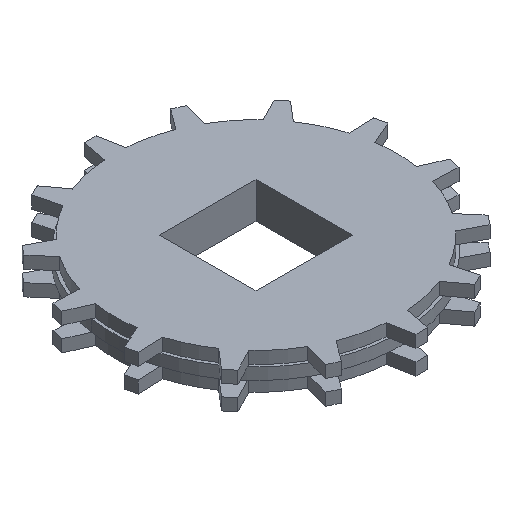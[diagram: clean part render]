
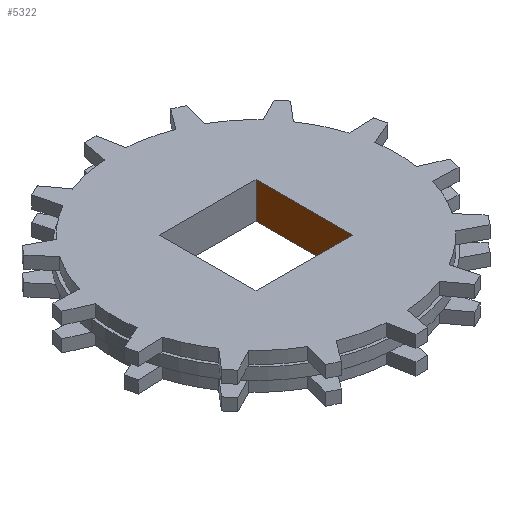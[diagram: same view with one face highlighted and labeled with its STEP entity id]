
A CAD part, isometric view. The second image highlights one B-rep face of the part: STEP entity #5322.
In plain terms, the highlighted planar face has unit normal (-1, 0, 0).
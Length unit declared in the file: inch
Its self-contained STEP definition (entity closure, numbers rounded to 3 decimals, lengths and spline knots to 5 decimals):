
#177=DIRECTION('',(0.,1.,0.));
#178=VECTOR('',#177,3.937);
#179=CARTESIAN_POINT('',(1.9685,-1.9685,-0.74));
#180=LINE('',#179,#178);
#915=DIRECTION('',(0.,1.,0.));
#916=VECTOR('',#915,3.937);
#917=CARTESIAN_POINT('',(1.9685,-1.9685,0.74));
#918=LINE('',#917,#916);
#1953=DIRECTION('',(0.,0.,-1.));
#1954=VECTOR('',#1953,1.48);
#1955=CARTESIAN_POINT('',(1.9685,-1.9685,0.74));
#1956=LINE('',#1955,#1954);
#1957=DIRECTION('',(0.,0.,-1.));
#1958=VECTOR('',#1957,1.48);
#1959=CARTESIAN_POINT('',(1.9685,1.9685,0.74));
#1960=LINE('',#1959,#1958);
#2077=CARTESIAN_POINT('',(1.9685,-1.9685,-0.74));
#2078=VERTEX_POINT('',#2077);
#2079=CARTESIAN_POINT('',(1.9685,1.9685,-0.74));
#2080=VERTEX_POINT('',#2079);
#2085=CARTESIAN_POINT('',(1.9685,-1.9685,0.74));
#2086=VERTEX_POINT('',#2085);
#2087=CARTESIAN_POINT('',(1.9685,1.9685,0.74));
#2088=VERTEX_POINT('',#2087);
#5310=CARTESIAN_POINT('',(1.9685,-1.9685,0.888));
#5311=DIRECTION('',(1.,0.,0.));
#5312=DIRECTION('',(0.,1.,0.));
#5313=AXIS2_PLACEMENT_3D('',#5310,#5311,#5312);
#5314=PLANE('',#5313);
#5315=ORIENTED_EDGE('',*,*,#2660,.T.);
#5317=ORIENTED_EDGE('',*,*,#5316,.F.);
#5318=ORIENTED_EDGE('',*,*,#3991,.F.);
#5319=ORIENTED_EDGE('',*,*,#5303,.T.);
#5320=EDGE_LOOP('',(#5315,#5317,#5318,#5319));
#5321=FACE_OUTER_BOUND('',#5320,.F.);
#5322=ADVANCED_FACE('',(#5321),#5314,.F.);
#2660=EDGE_CURVE('',#2078,#2080,#180,.T.);
#3991=EDGE_CURVE('',#2086,#2088,#918,.T.);
#5303=EDGE_CURVE('',#2086,#2078,#1956,.T.);
#5316=EDGE_CURVE('',#2088,#2080,#1960,.T.);
